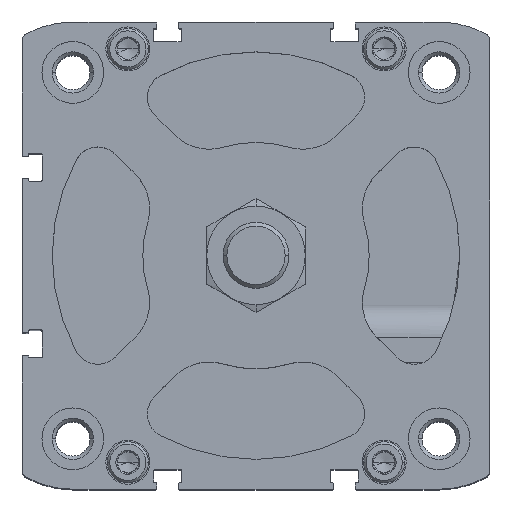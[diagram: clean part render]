
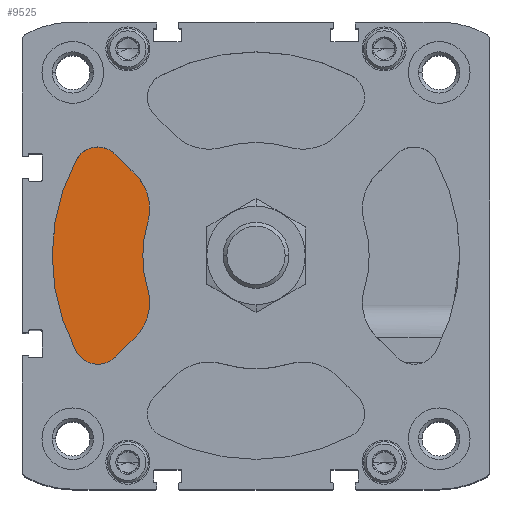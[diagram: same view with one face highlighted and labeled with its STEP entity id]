
A CAD part, top view. The second image highlights one B-rep face of the part: STEP entity #9525.
In plain terms, the highlighted planar face has unit normal (0, 0, 1).
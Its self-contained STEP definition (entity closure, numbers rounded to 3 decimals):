
#136 = VECTOR ( 'NONE', #11416, 1000. ) ;
#604 = DIRECTION ( 'NONE',  ( 0., 1., 0. ) ) ;
#1100 = DIRECTION ( 'NONE',  ( 1., 0., 0. ) ) ;
#1184 = DIRECTION ( 'NONE',  ( 0., 0., 1. ) ) ;
#1460 = DIRECTION ( 'NONE',  ( 0., 0., 1. ) ) ;
#1588 = ORIENTED_EDGE ( 'NONE', *, *, #14140, .T. ) ;
#1650 = DIRECTION ( 'NONE',  ( 0., 1., 0. ) ) ;
#1696 = DIRECTION ( 'NONE',  ( 0., 0., 1. ) ) ;
#1874 = CARTESIAN_POINT ( 'NONE',  ( 0., 0., -18.8 ) ) ;
#1998 = CIRCLE ( 'NONE', #19930, 49.5 ) ;
#2029 = AXIS2_PLACEMENT_3D ( 'NONE', #8879, #1460, #14003 ) ;
#2415 = AXIS2_PLACEMENT_3D ( 'NONE', #16144, #3671, #19710 ) ;
#2546 = ORIENTED_EDGE ( 'NONE', *, *, #6131, .T. ) ;
#2687 = PLANE ( 'NONE',  #21386 ) ;
#2810 = FACE_OUTER_BOUND ( 'NONE', #6254, .T. ) ;
#3398 = EDGE_CURVE ( 'NONE', #4565, #10596, #15332, .T. ) ;
#3671 = DIRECTION ( 'NONE',  ( 0., 0., 1. ) ) ;
#3716 = CARTESIAN_POINT ( 'NONE',  ( -43.724, 23.205, -18.8 ) ) ;
#3964 = VERTEX_POINT ( 'NONE', #3716 ) ;
#4272 = CARTESIAN_POINT ( 'NONE',  ( -26.345, 7.885, -18.8 ) ) ;
#4565 = VERTEX_POINT ( 'NONE', #4272 ) ;
#4628 = CARTESIAN_POINT ( 'NONE',  ( 0., 0., -18.8 ) ) ;
#5122 = CARTESIAN_POINT ( 'NONE',  ( -29.356, 19.81, -18.8 ) ) ;
#5838 = AXIS2_PLACEMENT_3D ( 'NONE', #20406, #1184, #22006 ) ;
#5948 = DIRECTION ( 'NONE',  ( 0., 1., 0. ) ) ;
#6036 = CIRCLE ( 'NONE', #8579, 6. ) ;
#6131 = EDGE_CURVE ( 'NONE', #10192, #17096, #17252, .T. ) ;
#6254 = EDGE_LOOP ( 'NONE', ( #20955, #2546, #18419, #9804, #14335, #6824, #19307, #7849, #1588 ) ) ;
#6309 = LINE ( 'NONE', #8141, #6684 ) ;
#6684 = VECTOR ( 'NONE', #13265, 1000. ) ;
#6824 = ORIENTED_EDGE ( 'NONE', *, *, #18352, .T. ) ;
#7103 = CARTESIAN_POINT ( 'NONE',  ( -43.724, -23.205, -18.8 ) ) ;
#7775 = EDGE_CURVE ( 'NONE', #12701, #10596, #17382, .T. ) ;
#7849 = ORIENTED_EDGE ( 'NONE', *, *, #21715, .T. ) ;
#8074 = CARTESIAN_POINT ( 'NONE',  ( -34.181, 24.635, -18.8 ) ) ;
#8141 = CARTESIAN_POINT ( 'NONE',  ( -29.356, 19.81, -18.8 ) ) ;
#8249 = CIRCLE ( 'NONE', #2029, 6. ) ;
#8265 = CIRCLE ( 'NONE', #2415, 12. ) ;
#8452 = DIRECTION ( 'NONE',  ( 0., 1., 0. ) ) ;
#8579 = AXIS2_PLACEMENT_3D ( 'NONE', #14020, #1696, #8452 ) ;
#8879 = CARTESIAN_POINT ( 'NONE',  ( -38.424, 20.393, -18.8 ) ) ;
#9034 = VERTEX_POINT ( 'NONE', #5122 ) ;
#9516 = VERTEX_POINT ( 'NONE', #8074 ) ;
#9525 = ADVANCED_FACE ( 'NONE', ( #2810 ), #2687, .T. ) ;
#9786 = DIRECTION ( 'NONE',  ( 0., 0., 1. ) ) ;
#9804 = ORIENTED_EDGE ( 'NONE', *, *, #7775, .T. ) ;
#10192 = VERTEX_POINT ( 'NONE', #7103 ) ;
#10263 = CARTESIAN_POINT ( 'NONE',  ( -38.424, 26.393, -18.8 ) ) ;
#10596 = VERTEX_POINT ( 'NONE', #10695 ) ;
#10695 = CARTESIAN_POINT ( 'NONE',  ( -26.345, -7.885, -18.8 ) ) ;
#10795 = EDGE_CURVE ( 'NONE', #3964, #10192, #1998, .T. ) ;
#11186 = AXIS2_PLACEMENT_3D ( 'NONE', #18529, #11425, #5948 ) ;
#11319 = CARTESIAN_POINT ( 'NONE',  ( -34.181, -24.635, -18.8 ) ) ;
#11416 = DIRECTION ( 'NONE',  ( 0.707, 0.707, 0. ) ) ;
#11425 = DIRECTION ( 'NONE',  ( 0., 0., 1. ) ) ;
#12486 = EDGE_CURVE ( 'NONE', #9034, #9516, #6309, .T. ) ;
#12701 = VERTEX_POINT ( 'NONE', #19329 ) ;
#12970 = EDGE_CURVE ( 'NONE', #17096, #12701, #21854, .T. ) ;
#13265 = DIRECTION ( 'NONE',  ( -0.707, 0.707, 0. ) ) ;
#14003 = DIRECTION ( 'NONE',  ( 0., 1., 0. ) ) ;
#14020 = CARTESIAN_POINT ( 'NONE',  ( -38.424, 20.393, -18.8 ) ) ;
#14140 = EDGE_CURVE ( 'NONE', #20170, #3964, #6036, .T. ) ;
#14335 = ORIENTED_EDGE ( 'NONE', *, *, #3398, .F. ) ;
#14541 = CARTESIAN_POINT ( 'NONE',  ( -38.424, -20.393, -18.8 ) ) ;
#15332 = CIRCLE ( 'NONE', #5838, 27.5 ) ;
#16144 = CARTESIAN_POINT ( 'NONE',  ( -37.842, 11.325, -18.8 ) ) ;
#17096 = VERTEX_POINT ( 'NONE', #11319 ) ;
#17252 = CIRCLE ( 'NONE', #21281, 6. ) ;
#17382 = CIRCLE ( 'NONE', #11186, 12. ) ;
#17518 = DIRECTION ( 'NONE',  ( 0., 0., 1. ) ) ;
#18352 = EDGE_CURVE ( 'NONE', #4565, #9034, #8265, .T. ) ;
#18419 = ORIENTED_EDGE ( 'NONE', *, *, #12970, .T. ) ;
#18529 = CARTESIAN_POINT ( 'NONE',  ( -37.842, -11.325, -18.8 ) ) ;
#18813 = DIRECTION ( 'NONE',  ( 0., 0., 1. ) ) ;
#19307 = ORIENTED_EDGE ( 'NONE', *, *, #12486, .T. ) ;
#19329 = CARTESIAN_POINT ( 'NONE',  ( -29.356, -19.81, -18.8 ) ) ;
#19710 = DIRECTION ( 'NONE',  ( 0., 1., 0. ) ) ;
#19930 = AXIS2_PLACEMENT_3D ( 'NONE', #1874, #18813, #1650 ) ;
#20170 = VERTEX_POINT ( 'NONE', #10263 ) ;
#20360 = CARTESIAN_POINT ( 'NONE',  ( -34.181, -24.635, -18.8 ) ) ;
#20406 = CARTESIAN_POINT ( 'NONE',  ( 0., 0., -18.8 ) ) ;
#20955 = ORIENTED_EDGE ( 'NONE', *, *, #10795, .T. ) ;
#21281 = AXIS2_PLACEMENT_3D ( 'NONE', #14541, #17518, #604 ) ;
#21386 = AXIS2_PLACEMENT_3D ( 'NONE', #4628, #9786, #1100 ) ;
#21715 = EDGE_CURVE ( 'NONE', #9516, #20170, #8249, .T. ) ;
#21854 = LINE ( 'NONE', #20360, #136 ) ;
#22006 = DIRECTION ( 'NONE',  ( 0., 1., 0. ) ) ;
